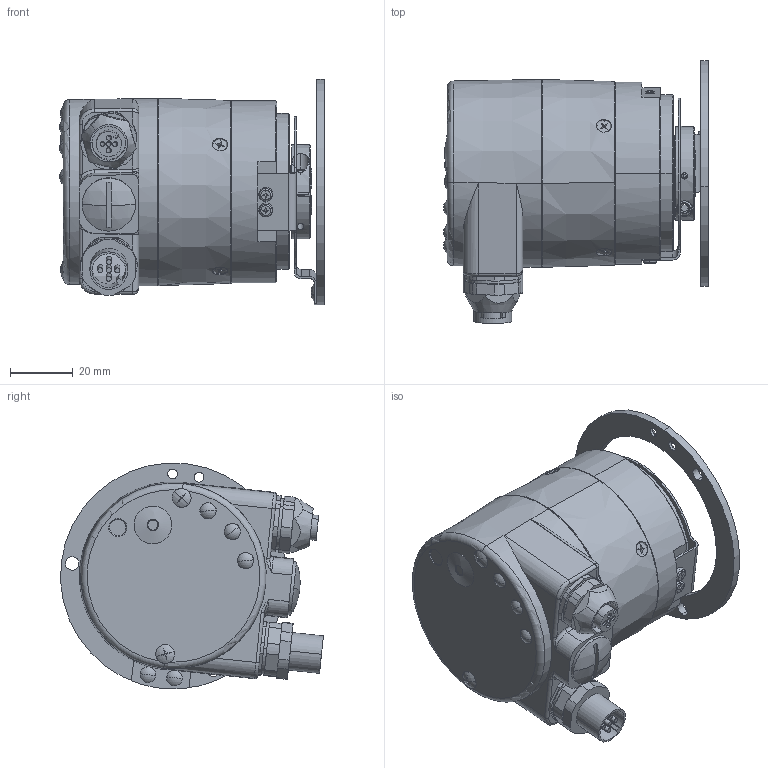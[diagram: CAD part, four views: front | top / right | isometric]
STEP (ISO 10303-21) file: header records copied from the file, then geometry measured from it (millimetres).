
FILE_DESCRIPTION (( 'STEP AP214' ), '1' );
FILE_NAME ('5878.3422.XXXX.STEP', '2008-06-04T06:17:26', ( 'admin' ), ( 'Fritz Kübler GmbH' ), 'SwSTEP 2.0', 'SolidWorks 2007', '' );
FILE_SCHEMA (( 'AUTOMOTIVE_DESIGN' ));
Length unit declared in the file: millimetre
Products named in the file (1): 5878.3422.XXXX
Bounding box: 84.4 x 83.72 x 71.93 mm (x, y, z)
Surface area: 34876.4 mm2 (no closed solid volume)
Topology: 0 solids, 35 shells, 514 faces, 1442 edges, 954 vertices
Faces by surface type: plane 220, cylinder 182, cone 68, torus 18, sphere 17, bspline 9
Entity records: 23129 total; most frequent: CARTESIAN_POINT 4003, DIRECTION 2977, ORIENTED_EDGE 2566, EDGE_CURVE 1437, AXIS2_PLACEMENT_3D 1120, VERTEX_POINT 954, VECTOR 737, LINE 737
